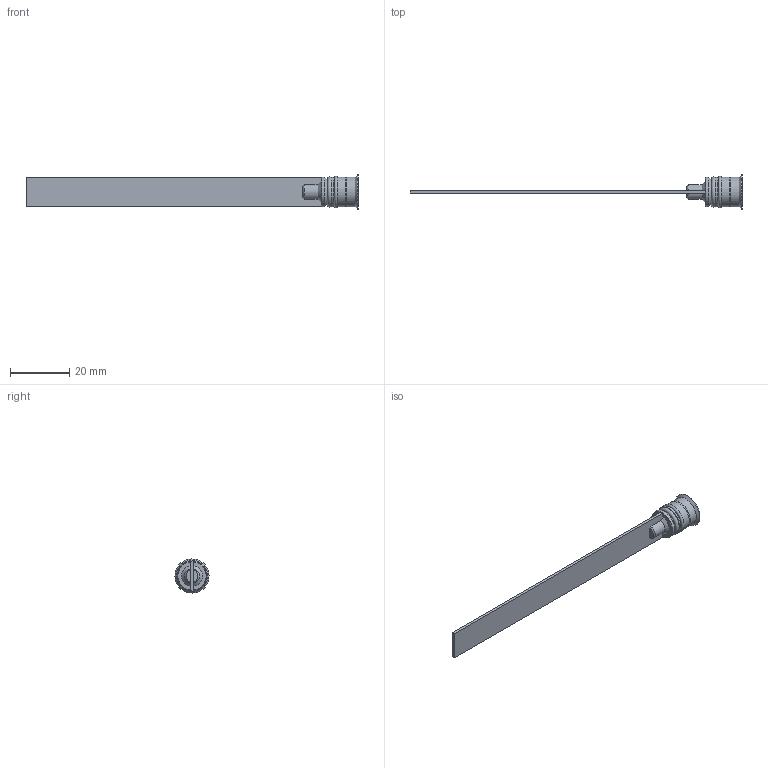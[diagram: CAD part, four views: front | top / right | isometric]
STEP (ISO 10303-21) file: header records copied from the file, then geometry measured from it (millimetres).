
FILE_DESCRIPTION( ( 'STEP AP214' ), '1' );
FILE_NAME( 'p:/temp/worker_256/temp/exporttempdir_3268_603_AJMiS/format_0/RL-10Fx100.stp', '2021-02-05T19:43:48', ( 'License CC BY-ND 4.0' ), ( 'CADENAS' ), ' ', 'PARTsolutions', ' ' );
FILE_SCHEMA( ( 'AUTOMOTIVE_DESIGN { 1 0 10303 214 1 1 1 1 }' ) );
Length unit declared in the file: millimetre
Products named in the file (1): _RL-10Fx100
Bounding box: 112.5 x 11.6 x 11.6 mm (x, y, z)
Volume: 1958.9 mm3; surface area: 3109.2 mm2
Topology: 1 solids, 1 shells, 52 faces, 127 edges, 80 vertices
Faces by surface type: plane 29, cone 10, cylinder 10, torus 3
Full cylindrical faces by diameter (mm): 6 x1, 10 x4, 11.6 x1
Entity records: 1886 total; most frequent: CARTESIAN_POINT 291, DIRECTION 236, ORIENTED_EDGE 224, EDGE_CURVE 112, AXIS2_PLACEMENT_3D 85, VERTEX_POINT 80, EDGE_LOOP 68, LINE 66
